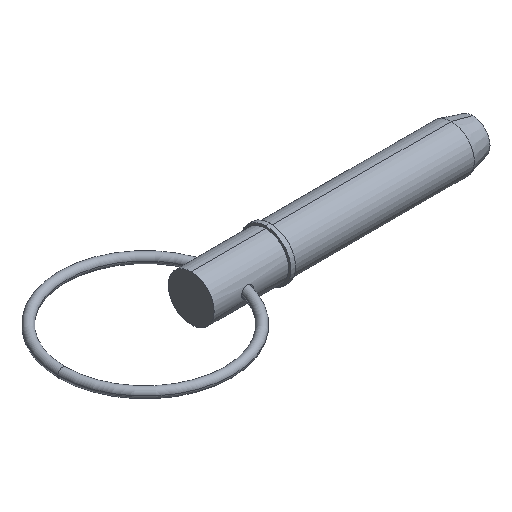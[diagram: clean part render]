
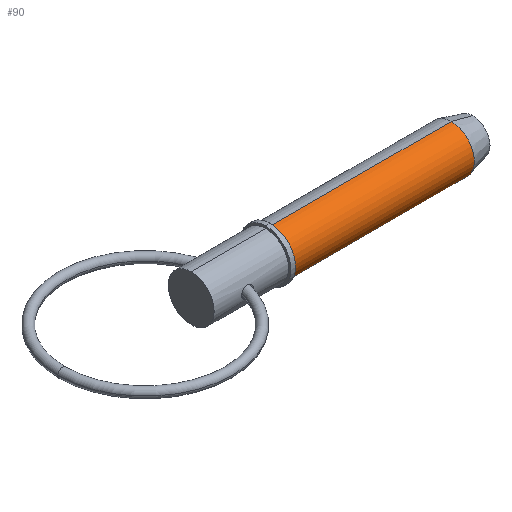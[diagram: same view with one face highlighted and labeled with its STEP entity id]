
A CAD part, isometric view. The second image highlights one B-rep face of the part: STEP entity #90.
In plain terms, the highlighted cylindrical face has radius 7.94 mm (diameter 15.88 mm), a partial arc.
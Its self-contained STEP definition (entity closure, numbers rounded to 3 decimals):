
#49 = DIRECTION ( 'NONE',  ( 0., 0., -1. ) ) ;
#56 = CARTESIAN_POINT ( 'NONE',  ( 27.31, 0., 7.94 ) ) ;
#60 = CARTESIAN_POINT ( 'NONE',  ( 89.752, 0., 0. ) ) ;
#62 = LINE ( 'NONE', #373, #550 ) ;
#90 = ADVANCED_FACE ( 'NONE', ( #324 ), #160, .T. ) ;
#122 = DIRECTION ( 'NONE',  ( 1., 0., 0. ) ) ;
#129 = DIRECTION ( 'NONE',  ( 1., 0., 0. ) ) ;
#139 = VERTEX_POINT ( 'NONE', #906 ) ;
#160 = CYLINDRICAL_SURFACE ( 'NONE', #221, 7.94 ) ;
#183 = AXIS2_PLACEMENT_3D ( 'NONE', #872, #129, #49 ) ;
#185 = ORIENTED_EDGE ( 'NONE', *, *, #618, .F. ) ;
#221 = AXIS2_PLACEMENT_3D ( 'NONE', #644, #973, #412 ) ;
#269 = VERTEX_POINT ( 'NONE', #447 ) ;
#324 = FACE_OUTER_BOUND ( 'NONE', #357, .T. ) ;
#331 = EDGE_CURVE ( 'NONE', #664, #269, #611, .T. ) ;
#344 = VECTOR ( 'NONE', #877, 1000. ) ;
#357 = EDGE_LOOP ( 'NONE', ( #185, #614, #935, #813 ) ) ;
#373 = CARTESIAN_POINT ( 'NONE',  ( 0., 0., 7.94 ) ) ;
#388 = CARTESIAN_POINT ( 'NONE',  ( 89.752, 0., -7.94 ) ) ;
#398 = EDGE_CURVE ( 'NONE', #139, #1019, #921, .T. ) ;
#412 = DIRECTION ( 'NONE',  ( 0., 0., -1. ) ) ;
#447 = CARTESIAN_POINT ( 'NONE',  ( 27.31, 0., -7.94 ) ) ;
#459 = DIRECTION ( 'NONE',  ( 0., 0., -1. ) ) ;
#460 = AXIS2_PLACEMENT_3D ( 'NONE', #60, #122, #459 ) ;
#545 = LINE ( 'NONE', #692, #344 ) ;
#550 = VECTOR ( 'NONE', #773, 1000. ) ;
#611 = CIRCLE ( 'NONE', #183, 7.94 ) ;
#614 = ORIENTED_EDGE ( 'NONE', *, *, #331, .T. ) ;
#618 = EDGE_CURVE ( 'NONE', #664, #139, #62, .T. ) ;
#644 = CARTESIAN_POINT ( 'NONE',  ( 0., 0., 0. ) ) ;
#664 = VERTEX_POINT ( 'NONE', #56 ) ;
#692 = CARTESIAN_POINT ( 'NONE',  ( 0., 0., -7.94 ) ) ;
#773 = DIRECTION ( 'NONE',  ( 1., 0., 0. ) ) ;
#813 = ORIENTED_EDGE ( 'NONE', *, *, #398, .F. ) ;
#872 = CARTESIAN_POINT ( 'NONE',  ( 27.31, 0., 0. ) ) ;
#877 = DIRECTION ( 'NONE',  ( 1., 0., 0. ) ) ;
#906 = CARTESIAN_POINT ( 'NONE',  ( 89.752, 0., 7.94 ) ) ;
#921 = CIRCLE ( 'NONE', #460, 7.94 ) ;
#935 = ORIENTED_EDGE ( 'NONE', *, *, #951, .T. ) ;
#951 = EDGE_CURVE ( 'NONE', #269, #1019, #545, .T. ) ;
#973 = DIRECTION ( 'NONE',  ( 1., 0., 0. ) ) ;
#1019 = VERTEX_POINT ( 'NONE', #388 ) ;
